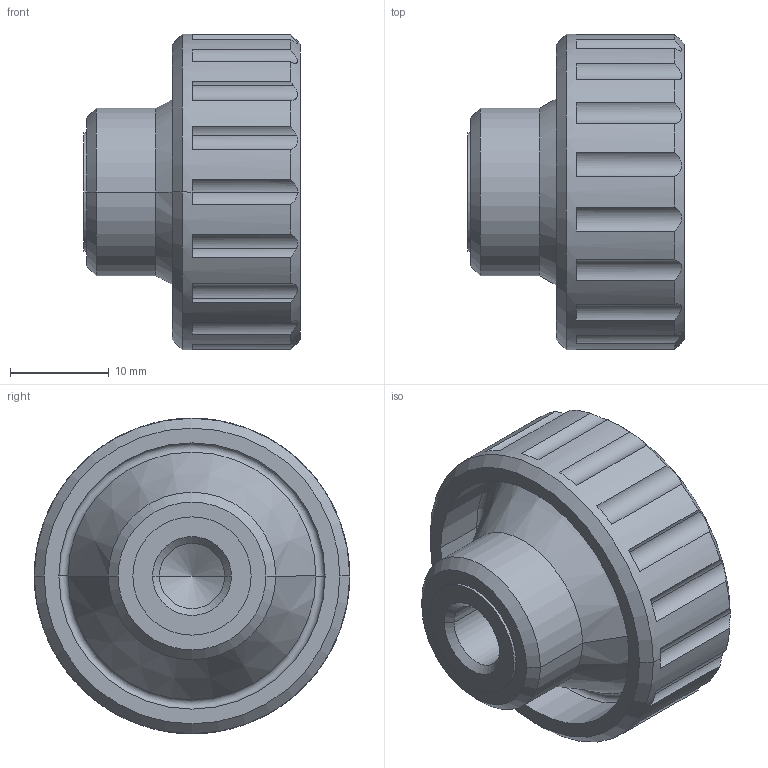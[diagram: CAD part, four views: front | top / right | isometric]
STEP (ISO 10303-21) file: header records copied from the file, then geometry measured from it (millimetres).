
FILE_DESCRIPTION (( 'STEP AP214' ), '1' );
FILE_NAME ('590-32-M8-E-ESD.step', '2025-06-16T12:57:07', ( '' ), ( '' ), 'SwSTEP 2.0', 'SolidWorks 2022', '' );
FILE_SCHEMA (( 'AUTOMOTIVE_DESIGN' ));
Length unit declared in the file: millimetre
Products named in the file (1): 590-32-M8-E-ESD
Bounding box: 22 x 32 x 32 mm (x, y, z)
Volume: 8223.8 mm3; surface area: 4471 mm2
Topology: 1 solids, 1 shells, 74 faces, 190 edges, 120 vertices
Faces by surface type: cylinder 35, plane 23, cone 14, torus 2
Entity records: 2622 total; most frequent: CARTESIAN_POINT 659, DIRECTION 411, ORIENTED_EDGE 376, EDGE_CURVE 188, AXIS2_PLACEMENT_3D 172, VERTEX_POINT 120, CIRCLE 97, EDGE_LOOP 78
